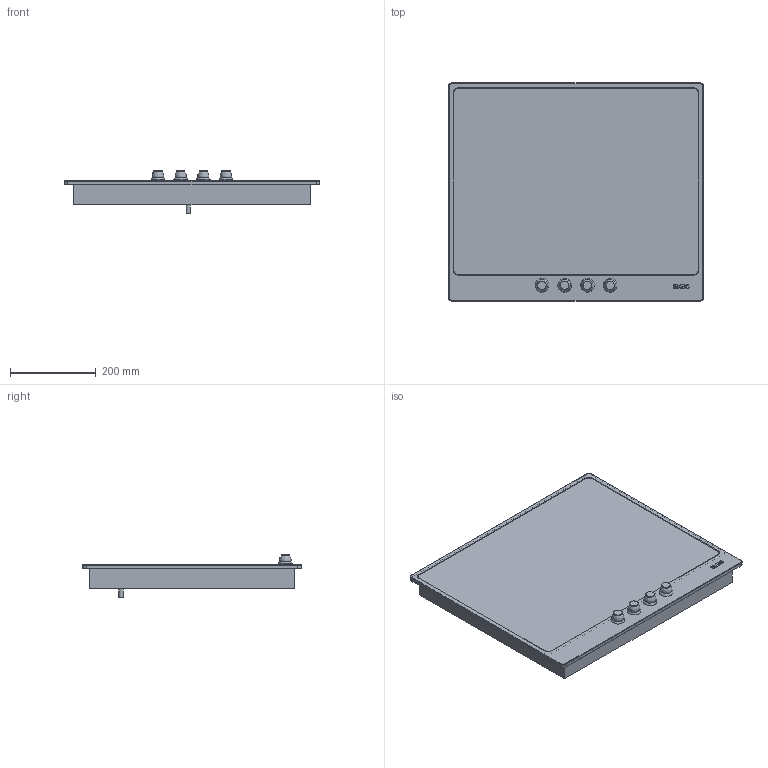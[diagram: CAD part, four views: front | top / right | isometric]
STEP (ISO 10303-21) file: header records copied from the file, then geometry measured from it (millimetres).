
FILE_DESCRIPTION(/* description */ (''),/* implementation_level */ '2;1');
FILE_NAME(/* name */ 'piano pi764.stp',/* time_stamp */ '2018-10-04T13:59:26+02:00',/* author */ (''),/* organization */ (''),/* preprocessor_version */ 'ST-DEVELOPER v16',/* originating_system */ 'SIEMENS PLM Software NX 11.0',/* authorisation */ '');
FILE_SCHEMA (('AUTOMOTIVE_DESIGN { 1 0 10303 214 3 1 1 1 }'));
Length unit declared in the file: millimetre
Products named in the file (1): gobb714867922afc
Bounding box: 596 x 510 x 100.1 mm (x, y, z)
Volume: 14486033.1 mm3; surface area: 1338559.8 mm2
Topology: 23 solids, 23 shells, 225 faces, 516 edges, 340 vertices
Faces by surface type: cylinder 106, plane 103, torus 12, bspline 4
Full cylindrical faces by diameter (mm): 10 x5, 19.7 x8, 23 x4
Entity records: 6572 total; most frequent: CARTESIAN_POINT 1183, DIRECTION 1165, ORIENTED_EDGE 982, EDGE_CURVE 491, AXIS2_PLACEMENT_3D 458, VERTEX_POINT 340, EDGE_LOOP 263, LINE 249
